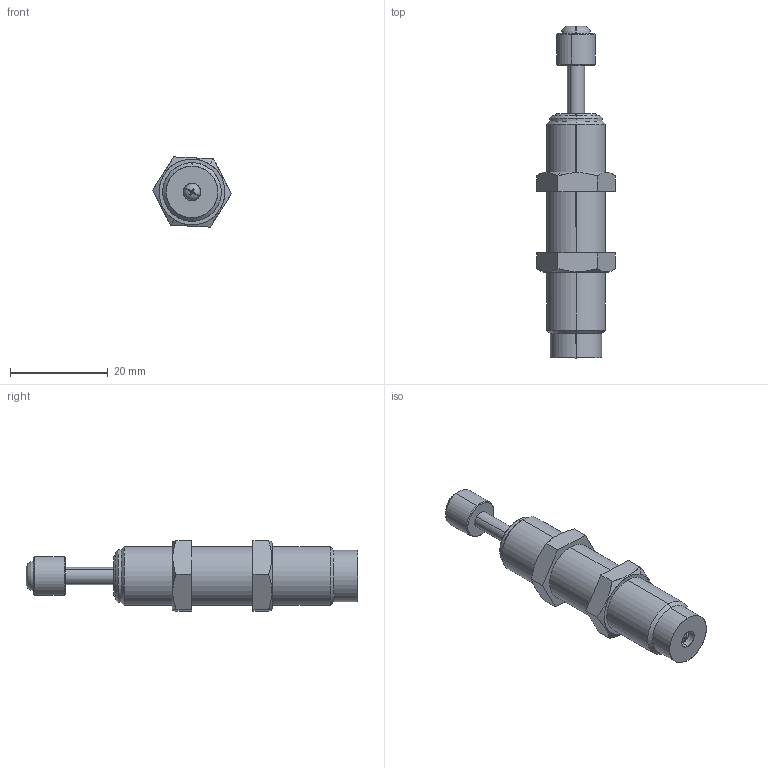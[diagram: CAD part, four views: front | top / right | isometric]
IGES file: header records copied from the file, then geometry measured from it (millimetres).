
Start section: SolidWorks IGES file using analytic representation for surfaces
Bounding box: 16.15 x 68 x 14.37 mm (x, y, z)
Surface area: 3373.3 mm2 (no closed solid volume)
Topology: 0 solids, 0 shells, 72 faces, 950 edges, 950 vertices
Faces by surface type: revolution 36, bspline 36
